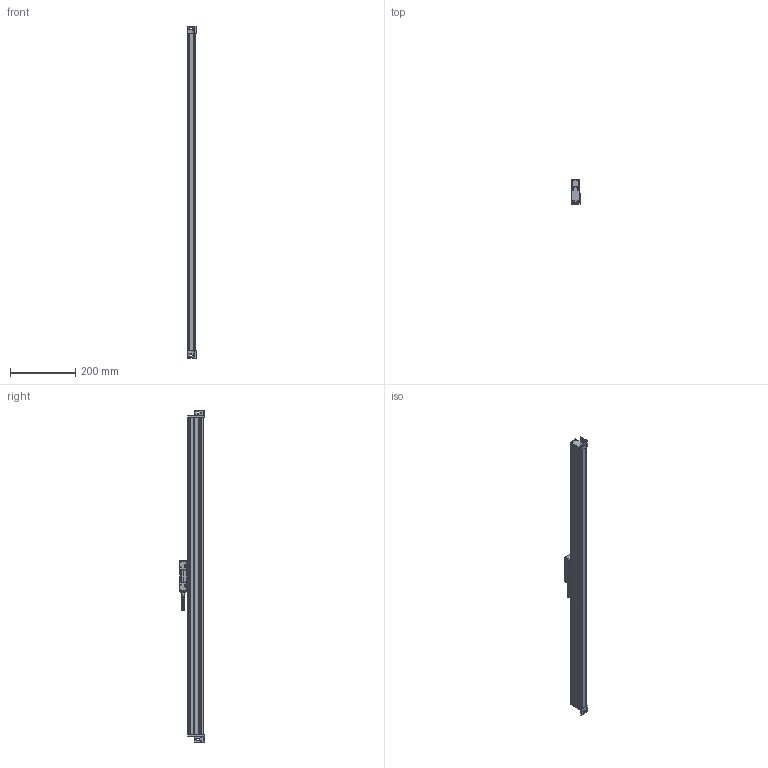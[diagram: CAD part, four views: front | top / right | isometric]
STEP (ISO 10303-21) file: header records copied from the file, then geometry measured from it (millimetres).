
FILE_DESCRIPTION (( 'STEP AP214' ), '1' );
FILE_NAME ('MLC310x0850.STEP', '2021-05-08T11:51:56', ( '' ), ( '' ), 'SwSTEP 2.0', 'SolidWorks 2014', '' );
FILE_SCHEMA (( 'AUTOMOTIVE_DESIGN' ));
Length unit declared in the file: millimetre
Products named in the file (1): MLC310x0850
Bounding box: 27 x 75.15 x 1014 mm (x, y, z)
Surface area: 180760.6 mm2 (no closed solid volume)
Topology: 0 solids, 24 shells, 415 faces, 1380 edges, 978 vertices
Faces by surface type: plane 164, cylinder 141, cone 75, bspline 27, torus 8
Entity records: 29872 total; most frequent: CARTESIAN_POINT 13649, DIRECTION 2382, ORIENTED_EDGE 2153, EDGE_CURVE 1372, VERTEX_POINT 978, AXIS2_PLACEMENT_3D 826, LINE 730, VECTOR 730
